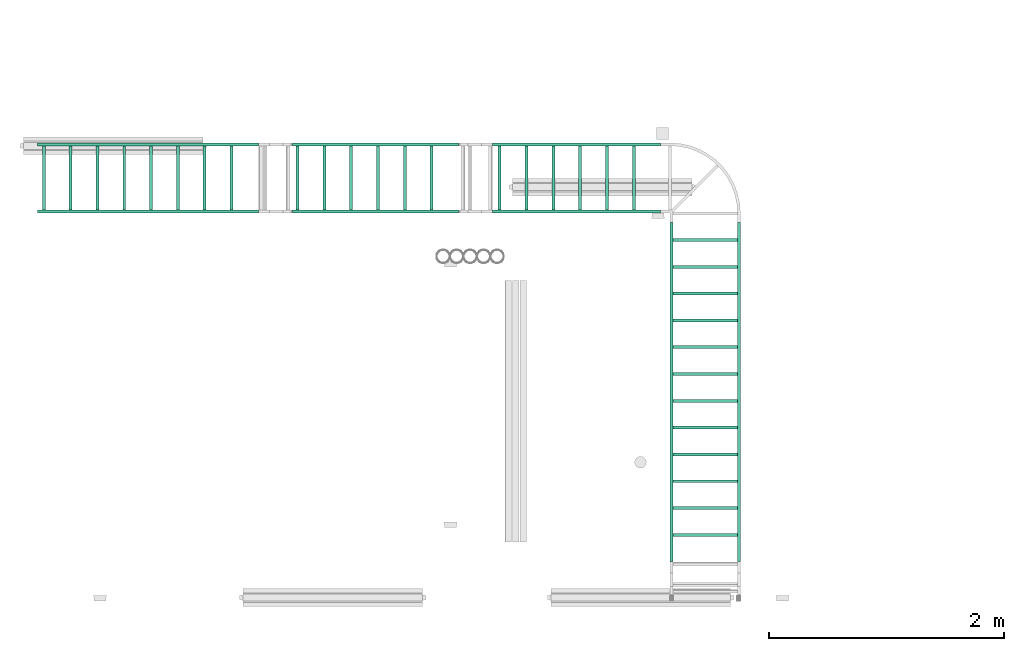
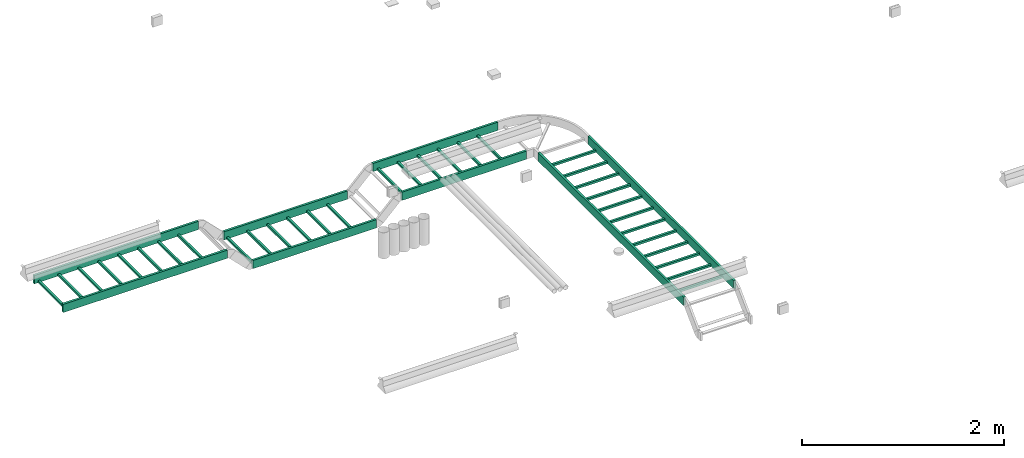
# One storey, part 9 of 14: 4 flow segments.
"""IFC2X3 building model written with IfcOpenShell, lengths in millimetres."""

from ifc_helpers import new_model, entity, si_unit, converted_unit, derived_unit, direction, frame, origin_with_axes, place, context, subcontext, project, spatial, open_shell, faceted_brep, surface_model, source, transform, mapped, type_object, element, save


model = new_model("IFC2X3")

# Units and contexts
model_context = context("Model", 3, precision=0.01, world=frame((0.0, 4.29681676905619e-09, 0.0)), true_north=direction((4.01073788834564e-13, 1.0)))
plan_context = context("Plan", 3, precision=0.01, world=frame((0.0, 4.29681676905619e-09, 0.0)), true_north=direction((4.01073788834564e-13, 1.0)))
body_context = subcontext(model_context, "Body", "Model", "MODEL_VIEW")
ifc_project = project(units=[converted_unit("PLANEANGLEUNIT", "DEGREE", entity("IfcPositiveLengthMeasure", 0.0174532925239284), si_unit("PLANEANGLEUNIT", "RADIAN"), dimensions=[0, 0, 0, 0, 0, 0, 0]), si_unit("AREAUNIT", "SQUARE_METRE"), si_unit("LENGTHUNIT", "METRE", prefix="MILLI"), si_unit("MASSUNIT", "GRAM", prefix="KILO"), si_unit("POWERUNIT", "WATT"), si_unit("PRESSUREUNIT", "PASCAL"), si_unit("FORCEUNIT", "NEWTON", prefix="KILO"), si_unit("ELECTRICVOLTAGEUNIT", "VOLT"), si_unit("ELECTRICCURRENTUNIT", "AMPERE"), si_unit("THERMODYNAMICTEMPERATUREUNIT", "DEGREE_CELSIUS"), si_unit("TIMEUNIT", "SECOND"), si_unit("VOLUMEUNIT", "CUBIC_METRE"), derived_unit("LINEARVELOCITYUNIT", [(si_unit("LENGTHUNIT", "METRE"), 1), (si_unit("TIMEUNIT", "SECOND"), -1)]), derived_unit("VOLUMETRICFLOWRATEUNIT", [(si_unit("VOLUMEUNIT", "CUBIC_METRE"), 1), (si_unit("TIMEUNIT", "SECOND"), -1)]), derived_unit("THERMALTRANSMITTANCEUNIT", [(si_unit("POWERUNIT", "WATT"), 1), (si_unit("THERMODYNAMICTEMPERATUREUNIT", "KELVIN"), -1), (si_unit("AREAUNIT", "SQUARE_METRE"), -1)]), derived_unit("SOUNDPRESSUREUNIT", [(si_unit("PRESSUREUNIT", "PASCAL"), 1)])], contexts=[model_context, plan_context])

# Site, building, storey
site_placement = place(None, frame((0.0, -4.29681676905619e-09, 0.0), z_axis=(0.0, 0.0, 1.0), x_axis=(1.0, 0.0, 0.0)))
site = spatial("IfcSite", under=ifc_project, at=site_placement, Name="ENGM", CompositionType="ELEMENT")
building_placement = place(site_placement, frame((0.0, 4.29681676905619e-09, 0.0), z_axis=(0.0, 0.0, 1.0), x_axis=(1.0, 0.0, 0.0)))
building = spatial("IfcBuilding", under=site, at=building_placement, Name="TH", CompositionType="ELEMENT")
storey_placement = place(building_placement, frame((0.0, 0.0, 205200.0), z_axis=(0.0, 0.0, 1.0), x_axis=(1.0, 0.0, 0.0)))
storey = spatial("IfcBuildingStorey", under=building, at=storey_placement, Name="Nivå D + 1,2 m", CompositionType="ELEMENT", Elevation=205200.0)

# Flow segments
cable_carrier_segment_type = type_object("IfcCableCarrierSegmentType", Name="Kabelbro", PredefinedType="CABLELADDERSEGMENT")
shared_shape_1 = source(origin_with_axes(), body_context, "Body", "SurfaceModel", [
    surface_model("IfcShellBasedSurfaceModel", [(241.30001, -274.60001, -24.6), (241.30001, -274.60001, -50.0), (241.30001, 274.60001, -24.6), (241.30001, 274.60001, -50.0), (215.89999, -274.60001, -50.0), (215.89999, -274.60001, -24.6), (215.89999, 274.60001, -50.0), (215.89999, 274.60001, -24.6), (469.89999, -274.60001, -24.6), (469.89999, -274.60001, -50.0), (469.89999, 274.60001, -24.6), (469.89999, 274.60001, -50.0), (444.50001, -274.60001, -50.0), (444.50001, -274.60001, -24.6), (444.50001, 274.60001, -50.0), (444.50001, 274.60001, -24.6), (698.50002, -274.60001, -24.6), (698.50002, -274.60001, -50.0), (698.50002, 274.60001, -24.6), (698.50002, 274.60001, -50.0), (673.09998, -274.60001, -50.0), (673.09998, -274.60001, -24.6), (673.09998, 274.60001, -50.0), (673.09998, 274.60001, -24.6), (927.10002, -274.60001, -24.6), (927.10002, -274.60001, -50.0), (927.10002, 274.60001, -24.6), (927.10002, 274.60001, -50.0), (901.69998, -274.60001, -50.0), (901.69998, -274.60001, -24.6), (901.69998, 274.60001, -50.0), (901.69998, 274.60001, -24.6), (1155.70002, -274.60001, -24.6), (1155.70002, -274.60001, -50.0), (1155.70002, 274.60001, -24.6), (1155.70002, 274.60001, -50.0), (1130.29998, -274.60001, -50.0), (1130.29998, -274.60001, -24.6), (1130.29998, 274.60001, -50.0), (1130.29998, 274.60001, -24.6), (1384.29995, -274.60001, -24.6), (1384.29995, -274.60001, -50.0), (1384.29995, 274.60001, -24.6), (1384.29995, 274.60001, -50.0), (1358.90005, -274.60001, -50.0), (1358.90005, -274.60001, -24.6), (1358.90005, 274.60001, -50.0), (1358.90005, 274.60001, -24.6), (1612.89995, -274.60001, -24.6), (1612.89995, -274.60001, -50.0), (1612.89995, 274.60001, -24.6), (1612.89995, 274.60001, -50.0), (1587.50005, -274.60001, -50.0), (1587.50005, -274.60001, -24.6), (1587.50005, 274.60001, -50.0), (1587.50005, 274.60001, -24.6), (1841.49995, -274.60001, -24.6), (1841.49995, -274.60001, -50.0), (1841.49995, 274.60001, -24.6), (1841.49995, 274.60001, -50.0), (1816.10005, -274.60001, -50.0), (1816.10005, -274.60001, -24.6), (1816.10005, 274.60001, -50.0), (1816.10005, 274.60001, -24.6), (2070.09995, -274.60001, -24.6), (2070.09995, -274.60001, -50.0), (2070.09995, 274.60001, -24.6), (2070.09995, 274.60001, -50.0), (2044.70005, -274.60001, -50.0), (2044.70005, -274.60001, -24.6), (2044.70005, 274.60001, -50.0), (2044.70005, 274.60001, -24.6), (2298.69995, -274.60001, -24.6), (2298.69995, -274.60001, -50.0), (2298.69995, 274.60001, -24.6), (2298.69995, 274.60001, -50.0), (2273.30005, -274.60001, -50.0), (2273.30005, -274.60001, -24.6), (2273.30005, 274.60001, -50.0), (2273.30005, 274.60001, -24.6), (2527.3001, -274.60001, -24.6), (2527.3001, -274.60001, -50.0), (2527.3001, 274.60001, -24.6), (2527.3001, 274.60001, -50.0), (2501.8999, -274.60001, -50.0), (2501.8999, -274.60001, -24.6), (2501.8999, 274.60001, -50.0), (2501.8999, 274.60001, -24.6), (2755.9001, -274.60001, -24.6), (2755.9001, -274.60001, -50.0), (2755.9001, 274.60001, -24.6), (2755.9001, 274.60001, -50.0), (2730.4999, -274.60001, -50.0), (2730.4999, -274.60001, -24.6), (2730.4999, 274.60001, -50.0), (2730.4999, 274.60001, -24.6), (0.0, -300.0, -50.0), (0.0, -300.0, 50.0), (0.0, -274.60001, 50.0), (0.0, -274.60001, -50.0), (0.0, 274.60001, -50.0), (0.0, 274.60001, 50.0), (0.0, 300.0, 50.0), (0.0, 300.0, -50.0), (2890.74739, -300.0, -50.0), (2890.74739, -274.60001, -50.0), (2890.74739, -274.60001, 50.0), (2890.74739, -300.0, 50.0), (2890.74739, 274.60001, -50.0), (2890.74739, 300.0, -50.0), (2890.74739, 300.0, 50.0), (2890.74739, 274.60001, 50.0)], [open_shell([[[0, 1, 2]], [[3, 2, 1]], [[4, 5, 6]], [[7, 6, 5]], [[8, 9, 10]], [[11, 10, 9]], [[12, 13, 14]], [[15, 14, 13]], [[16, 17, 18]], [[19, 18, 17]], [[20, 21, 22]], [[23, 22, 21]], [[24, 25, 26]], [[27, 26, 25]], [[28, 29, 30]], [[31, 30, 29]], [[32, 33, 34]], [[35, 34, 33]], [[36, 37, 38]], [[39, 38, 37]], [[40, 41, 42]], [[43, 42, 41]], [[44, 45, 46]], [[47, 46, 45]], [[48, 49, 50]], [[51, 50, 49]], [[52, 53, 54]], [[55, 54, 53]], [[56, 57, 58]], [[59, 58, 57]], [[60, 61, 62]], [[63, 62, 61]], [[64, 65, 66]], [[67, 66, 65]], [[68, 69, 70]], [[71, 70, 69]], [[72, 73, 74]], [[75, 74, 73]], [[76, 77, 78]], [[79, 78, 77]], [[80, 81, 82]], [[83, 82, 81]], [[84, 85, 86]], [[87, 86, 85]], [[88, 89, 90]], [[91, 90, 89]], [[92, 93, 94]], [[95, 94, 93]], [[96, 97, 98]], [[98, 99, 96]], [[0, 5, 4]], [[4, 1, 0]], [[6, 7, 2]], [[2, 3, 6]], [[100, 101, 102]], [[102, 103, 100]], [[5, 0, 7]], [[2, 7, 0]], [[1, 4, 3]], [[6, 3, 4]], [[12, 9, 8]], [[8, 13, 12]], [[10, 11, 14]], [[14, 15, 10]], [[13, 8, 15]], [[10, 15, 8]], [[9, 12, 11]], [[14, 11, 12]], [[20, 17, 16]], [[16, 21, 20]], [[18, 19, 22]], [[22, 23, 18]], [[21, 16, 23]], [[18, 23, 16]], [[17, 20, 19]], [[22, 19, 20]], [[28, 25, 24]], [[24, 29, 28]], [[26, 27, 30]], [[30, 31, 26]], [[29, 24, 31]], [[26, 31, 24]], [[25, 28, 27]], [[30, 27, 28]], [[37, 32, 39]], [[34, 39, 32]], [[33, 36, 35]], [[38, 35, 36]], [[45, 40, 47]], [[42, 47, 40]], [[41, 44, 43]], [[46, 43, 44]], [[53, 48, 55]], [[50, 55, 48]], [[49, 52, 51]], [[54, 51, 52]], [[61, 56, 63]], [[58, 63, 56]], [[57, 60, 59]], [[62, 59, 60]], [[69, 64, 71]], [[66, 71, 64]], [[65, 68, 67]], [[70, 67, 68]], [[77, 72, 79]], [[74, 79, 72]], [[73, 76, 75]], [[78, 75, 76]], [[85, 80, 87]], [[82, 87, 80]], [[81, 84, 83]], [[86, 83, 84]], [[93, 88, 95]], [[90, 95, 88]], [[89, 92, 91]], [[94, 91, 92]], [[32, 37, 36]], [[36, 33, 32]], [[38, 39, 34]], [[34, 35, 38]], [[40, 45, 44]], [[44, 41, 40]], [[46, 47, 42]], [[42, 43, 46]], [[48, 53, 52]], [[52, 49, 48]], [[54, 55, 50]], [[50, 51, 54]], [[56, 61, 60]], [[60, 57, 56]], [[62, 63, 58]], [[58, 59, 62]], [[64, 69, 68]], [[68, 65, 64]], [[70, 71, 66]], [[66, 67, 70]], [[72, 77, 76]], [[76, 73, 72]], [[78, 79, 74]], [[74, 75, 78]], [[80, 85, 84]], [[84, 81, 80]], [[86, 87, 82]], [[82, 83, 86]], [[88, 93, 92]], [[92, 89, 88]], [[94, 95, 90]], [[90, 91, 94]], [[104, 105, 106]], [[106, 107, 104]], [[108, 109, 110]], [[110, 111, 108]], [[97, 96, 104]], [[104, 107, 97]], [[98, 97, 106]], [[107, 106, 97]], [[99, 98, 105]], [[106, 105, 98]], [[96, 99, 104]], [[105, 104, 99]], [[103, 102, 109]], [[110, 109, 102]], [[100, 103, 108]], [[109, 108, 103]], [[101, 100, 108]], [[108, 111, 101]], [[102, 101, 110]], [[111, 110, 101]]])]),
])
flow_segment_1_placement = place(storey_placement, frame((900805.0, 477903.25248, 4345.29999999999), z_axis=(0.0, 0.0, 1.0), x_axis=(0.0, 1.0, 0.0)))
element("IfcFlowSegment", 1, at=flow_segment_1_placement, inside=storey, type_object=cable_carrier_segment_type, Name="Kabelbro", context=body_context, shape_type="MappedRepresentation", body=[
    mapped(shared_shape_1, transform((0.0, 0.0, 0.0), scale=1.0)),
])
shared_shape_2 = source(origin_with_axes(), body_context, "Body", "SurfaceModel", [
    surface_model("IfcShellBasedSurfaceModel", [(0.0, -274.60001, -50.0), (0.0, -300.0, -50.0), (0.0, -300.0, 50.0), (0.0, -274.60001, 50.0), (0.0, 300.0, -50.0), (0.0, 274.60001, -50.0), (0.0, 274.60001, 50.0), (0.0, 300.0, 50.0), (215.89999, -274.60001, -24.6), (215.89999, -274.60001, -50.0), (241.30001, -274.60001, -50.0), (241.30001, -274.60001, -24.6), (241.30001, 274.60001, -50.0), (215.89999, 274.60001, -50.0), (215.89999, 274.60001, -24.6), (241.30001, 274.60001, -24.6), (444.50001, -274.60001, -24.6), (444.50001, -274.60001, -50.0), (469.89999, -274.60001, -50.0), (469.89999, -274.60001, -24.6), (469.89999, 274.60001, -50.0), (444.50001, 274.60001, -50.0), (444.50001, 274.60001, -24.6), (469.89999, 274.60001, -24.6), (673.09998, -274.60001, -24.6), (673.09998, -274.60001, -50.0), (698.50002, -274.60001, -50.0), (698.50002, -274.60001, -24.6), (698.50002, 274.60001, -50.0), (673.09998, 274.60001, -50.0), (673.09998, 274.60001, -24.6), (698.50002, 274.60001, -24.6), (901.69998, -274.60001, -24.6), (901.69998, -274.60001, -50.0), (927.10002, -274.60001, -50.0), (927.10002, -274.60001, -24.6), (927.10002, 274.60001, -50.0), (901.69998, 274.60001, -50.0), (901.69998, 274.60001, -24.6), (927.10002, 274.60001, -24.6), (1130.29998, -274.60001, -24.6), (1130.29998, -274.60001, -50.0), (1155.70002, -274.60001, -50.0), (1155.70002, -274.60001, -24.6), (1155.70002, 274.60001, -50.0), (1130.29998, 274.60001, -50.0), (1130.29998, 274.60001, -24.6), (1155.70002, 274.60001, -24.6), (1358.90005, -274.60001, -24.6), (1358.90005, -274.60001, -50.0), (1384.29995, -274.60001, -50.0), (1384.29995, -274.60001, -24.6), (1384.29995, 274.60001, -50.0), (1358.90005, 274.60001, -50.0), (1358.90005, 274.60001, -24.6), (1384.29995, 274.60001, -24.6), (1431.19665, -300.0, 50.0), (1431.19665, -300.0, -50.0), (1431.19665, -274.60001, -50.0), (1431.19665, -274.60001, 50.0), (1431.19665, 274.60001, 50.0), (1431.19665, 274.60001, -50.0), (1431.19665, 300.0, -50.0), (1431.19665, 300.0, 50.0)], [open_shell([[[0, 1, 2]], [[2, 3, 0]], [[4, 5, 6]], [[6, 7, 4]], [[8, 9, 10]], [[10, 11, 8]], [[12, 13, 14]], [[14, 15, 12]], [[11, 10, 15]], [[12, 15, 10]], [[8, 11, 15]], [[15, 14, 8]], [[9, 8, 13]], [[14, 13, 8]], [[10, 9, 13]], [[13, 12, 10]], [[16, 17, 18]], [[18, 19, 16]], [[20, 21, 22]], [[22, 23, 20]], [[19, 18, 23]], [[20, 23, 18]], [[16, 19, 23]], [[23, 22, 16]], [[17, 16, 21]], [[22, 21, 16]], [[18, 17, 21]], [[21, 20, 18]], [[24, 25, 26]], [[26, 27, 24]], [[28, 29, 30]], [[30, 31, 28]], [[27, 26, 31]], [[28, 31, 26]], [[24, 27, 31]], [[31, 30, 24]], [[25, 24, 29]], [[30, 29, 24]], [[26, 25, 29]], [[29, 28, 26]], [[32, 33, 34]], [[34, 35, 32]], [[36, 37, 38]], [[38, 39, 36]], [[35, 34, 39]], [[36, 39, 34]], [[32, 35, 39]], [[39, 38, 32]], [[33, 32, 37]], [[38, 37, 32]], [[34, 33, 37]], [[37, 36, 34]], [[40, 41, 42]], [[42, 43, 40]], [[44, 45, 46]], [[46, 47, 44]], [[43, 42, 47]], [[44, 47, 42]], [[40, 43, 47]], [[47, 46, 40]], [[41, 40, 45]], [[46, 45, 40]], [[42, 41, 45]], [[45, 44, 42]], [[48, 49, 50]], [[50, 51, 48]], [[52, 53, 54]], [[54, 55, 52]], [[51, 50, 55]], [[52, 55, 50]], [[48, 51, 55]], [[55, 54, 48]], [[49, 48, 53]], [[54, 53, 48]], [[50, 49, 53]], [[53, 52, 50]], [[56, 57, 58]], [[58, 59, 56]], [[60, 61, 62]], [[62, 63, 60]], [[2, 1, 56]], [[57, 56, 1]], [[3, 2, 59]], [[56, 59, 2]], [[0, 3, 58]], [[59, 58, 3]], [[1, 0, 57]], [[58, 57, 0]], [[4, 7, 62]], [[63, 62, 7]], [[5, 4, 61]], [[62, 61, 4]], [[6, 5, 60]], [[61, 60, 5]], [[7, 6, 63]], [[60, 63, 6]]])]),
])
flow_segment_2_placement = place(storey_placement, frame((900424.0, 481175.0, 4345.29999999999), z_axis=(0.0, 0.0, 1.0), x_axis=(-1.0, 0.0, 0.0)))
element("IfcFlowSegment", 2, at=flow_segment_2_placement, inside=storey, type_object=cable_carrier_segment_type, Name="Kabelbro", context=body_context, shape_type="MappedRepresentation", body=[
    mapped(shared_shape_2, transform((0.0, 0.0, 0.0), scale=1.0)),
])
shared_shape_3 = source(origin_with_axes(), body_context, "Body", "SurfaceModel", [
    surface_model("IfcShellBasedSurfaceModel", [(0.0, -274.60001, -50.0), (0.0, -300.0, -50.0), (0.0, -300.0, 50.0), (0.0, -274.60001, 50.0), (0.0, 300.0, -50.0), (0.0, 274.60001, -50.0), (0.0, 274.60001, 50.0), (0.0, 300.0, 50.0), (215.89999, -274.60001, -24.6), (215.89999, -274.60001, -50.0), (241.30001, -274.60001, -50.0), (241.30001, -274.60001, -24.6), (241.30001, 274.60001, -50.0), (215.89999, 274.60001, -50.0), (215.89999, 274.60001, -24.6), (241.30001, 274.60001, -24.6), (444.50001, -274.60001, -24.6), (444.50001, -274.60001, -50.0), (469.89999, -274.60001, -50.0), (469.89999, -274.60001, -24.6), (469.89999, 274.60001, -50.0), (444.50001, 274.60001, -50.0), (444.50001, 274.60001, -24.6), (469.89999, 274.60001, -24.6), (673.09998, -274.60001, -24.6), (673.09998, -274.60001, -50.0), (698.50002, -274.60001, -50.0), (698.50002, -274.60001, -24.6), (698.50002, 274.60001, -50.0), (673.09998, 274.60001, -50.0), (673.09998, 274.60001, -24.6), (698.50002, 274.60001, -24.6), (901.69998, -274.60001, -24.6), (901.69998, -274.60001, -50.0), (927.10002, -274.60001, -50.0), (927.10002, -274.60001, -24.6), (927.10002, 274.60001, -50.0), (901.69998, 274.60001, -50.0), (901.69998, 274.60001, -24.6), (927.10002, 274.60001, -24.6), (1130.29998, -274.60001, -24.6), (1130.29998, -274.60001, -50.0), (1155.70002, -274.60001, -50.0), (1155.70002, -274.60001, -24.6), (1155.70002, 274.60001, -50.0), (1130.29998, 274.60001, -50.0), (1130.29998, 274.60001, -24.6), (1155.70002, 274.60001, -24.6), (1358.90005, -274.60001, -24.6), (1358.90005, -274.60001, -50.0), (1384.29995, -274.60001, -50.0), (1384.29995, -274.60001, -24.6), (1384.29995, 274.60001, -50.0), (1358.90005, 274.60001, -50.0), (1358.90005, 274.60001, -24.6), (1384.29995, 274.60001, -24.6), (1413.57011, -300.0, 50.0), (1413.57011, -300.0, -50.0), (1413.57011, -274.60001, -50.0), (1413.57011, -274.60001, 50.0), (1413.57011, 274.60001, 50.0), (1413.57011, 274.60001, -50.0), (1413.57011, 300.0, -50.0), (1413.57011, 300.0, 50.0)], [open_shell([[[0, 1, 2]], [[2, 3, 0]], [[4, 5, 6]], [[6, 7, 4]], [[8, 9, 10]], [[10, 11, 8]], [[12, 13, 14]], [[14, 15, 12]], [[11, 10, 15]], [[12, 15, 10]], [[8, 11, 15]], [[15, 14, 8]], [[9, 8, 13]], [[14, 13, 8]], [[10, 9, 13]], [[13, 12, 10]], [[16, 17, 18]], [[18, 19, 16]], [[20, 21, 22]], [[22, 23, 20]], [[19, 18, 23]], [[20, 23, 18]], [[16, 19, 23]], [[23, 22, 16]], [[17, 16, 21]], [[22, 21, 16]], [[18, 17, 21]], [[21, 20, 18]], [[24, 25, 26]], [[26, 27, 24]], [[28, 29, 30]], [[30, 31, 28]], [[27, 26, 31]], [[28, 31, 26]], [[24, 27, 31]], [[31, 30, 24]], [[25, 24, 29]], [[30, 29, 24]], [[26, 25, 29]], [[29, 28, 26]], [[32, 33, 34]], [[34, 35, 32]], [[36, 37, 38]], [[38, 39, 36]], [[35, 34, 39]], [[36, 39, 34]], [[32, 35, 39]], [[39, 38, 32]], [[33, 32, 37]], [[38, 37, 32]], [[34, 33, 37]], [[37, 36, 34]], [[40, 41, 42]], [[42, 43, 40]], [[44, 45, 46]], [[46, 47, 44]], [[43, 42, 47]], [[44, 47, 42]], [[40, 43, 47]], [[47, 46, 40]], [[41, 40, 45]], [[46, 45, 40]], [[42, 41, 45]], [[45, 44, 42]], [[48, 49, 50]], [[50, 51, 48]], [[52, 53, 54]], [[54, 55, 52]], [[51, 50, 55]], [[52, 55, 50]], [[48, 51, 55]], [[55, 54, 48]], [[49, 48, 53]], [[54, 53, 48]], [[50, 49, 53]], [[53, 52, 50]], [[56, 57, 58]], [[58, 59, 56]], [[60, 61, 62]], [[62, 63, 60]], [[2, 1, 57]], [[57, 56, 2]], [[3, 2, 56]], [[56, 59, 3]], [[0, 3, 59]], [[59, 58, 0]], [[1, 0, 58]], [[58, 57, 1]], [[4, 7, 63]], [[63, 62, 4]], [[5, 4, 62]], [[62, 61, 5]], [[6, 5, 61]], [[61, 60, 6]], [[7, 6, 60]], [[60, 63, 7]]])]),
])
flow_segment_3_placement = place(storey_placement, frame((898700.09774, 481175.0, 4115.29999999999), z_axis=(0.0, 0.0, 1.0), x_axis=(-1.0, 0.0, 0.0)))
element("IfcFlowSegment", 3, at=flow_segment_3_placement, inside=storey, type_object=cable_carrier_segment_type, Name="Kabelbro", context=body_context, shape_type="MappedRepresentation", body=[
    mapped(shared_shape_3, transform((0.0, 0.0, 0.0), scale=1.0)),
])
flow_segment_4_placement = place(storey_placement, frame((896993.82198, 481175.0, 4345.29999999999), z_axis=(0.0, 0.0, 1.0), x_axis=(-1.0, 0.0, 0.0)))
element("IfcFlowSegment", 4, at=flow_segment_4_placement, inside=storey, type_object=cable_carrier_segment_type, Name="Kabelbro", context=body_context, shape_type="Brep", body=[
    faceted_brep([(0.0, -300.0, 50.0), (0.0, -300.0, -50.0), (0.0, -274.60001, -50.0), (0.0, -274.60001, 50.0), (0.0, 274.60001, 50.0), (0.0, 274.60001, -50.0), (0.0, 300.0, -50.0), (0.0, 300.0, 50.0), (241.30001, -274.60001, -50.0), (215.89999, -274.60001, -50.0), (215.89999, -274.60001, -24.6), (241.30001, -274.60001, -24.6), (215.89999, 274.60001, -24.6), (215.89999, 274.60001, -50.0), (241.30001, 274.60001, -50.0), (241.30001, 274.60001, -24.6), (469.89999, -274.60001, -50.0), (444.50001, -274.60001, -50.0), (444.50001, -274.60001, -24.6), (469.89999, -274.60001, -24.6), (444.50001, 274.60001, -24.6), (444.50001, 274.60001, -50.0), (469.89999, 274.60001, -50.0), (469.89999, 274.60001, -24.6), (698.50002, -274.60001, -50.0), (673.09998, -274.60001, -50.0), (673.09998, -274.60001, -24.6), (698.50002, -274.60001, -24.6), (673.09998, 274.60001, -24.6), (673.09998, 274.60001, -50.0), (698.50002, 274.60001, -50.0), (698.50002, 274.60001, -24.6), (927.10002, -274.60001, -50.0), (901.69998, -274.60001, -50.0), (901.69998, -274.60001, -24.6), (927.10002, -274.60001, -24.6), (901.69998, 274.60001, -24.6), (901.69998, 274.60001, -50.0), (927.10002, 274.60001, -50.0), (927.10002, 274.60001, -24.6), (1155.70002, -274.60001, -50.0), (1130.29998, -274.60001, -50.0), (1130.29998, -274.60001, -24.6), (1155.70002, -274.60001, -24.6), (1130.29998, 274.60001, -24.6), (1130.29998, 274.60001, -50.0), (1155.70002, 274.60001, -50.0), (1155.70002, 274.60001, -24.6), (1384.29995, -274.60001, -50.0), (1358.90005, -274.60001, -50.0), (1358.90005, -274.60001, -24.6), (1384.29995, -274.60001, -24.6), (1358.90005, 274.60001, -24.6), (1358.90005, 274.60001, -50.0), (1384.29995, 274.60001, -50.0), (1384.29995, 274.60001, -24.6), (1612.89995, -274.60001, -50.0), (1587.50005, -274.60001, -50.0), (1587.50005, -274.60001, -24.6), (1612.89995, -274.60001, -24.6), (1587.50005, 274.60001, -24.6), (1587.50005, 274.60001, -50.0), (1612.89995, 274.60001, -50.0), (1612.89995, 274.60001, -24.6), (1841.49995, -274.60001, -50.0), (1816.10005, -274.60001, -50.0), (1816.10005, -274.60001, -24.6), (1841.49995, -274.60001, -24.6), (1816.10005, 274.60001, -24.6), (1816.10005, 274.60001, -50.0), (1841.49995, 274.60001, -50.0), (1841.49995, 274.60001, -24.6), (1881.91581142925, -300.0, 50.0), (1881.91581142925, -300.0, -11.9493821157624), (1881.91581142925, -300.0, -50.0), (1881.91581142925, -274.60001, 50.0), (1881.91581142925, -290.335146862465, 50.0), (1881.91581142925, -274.60001, -11.9493821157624), (1881.91581142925, -274.60001, -50.0), (1881.91581142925, -284.264863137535, -50.0), (1881.91581142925, 300.0, -11.9493821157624), (1881.91581142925, 300.0, 50.0), (1881.91581142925, 300.0, -50.0), (1881.91581142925, 274.60001, -50.0), (1881.91581142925, 290.335146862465, -50.0), (1881.91581142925, 274.60001, 50.0), (1881.91581142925, 274.60001, -11.9493821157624), (1881.91581142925, 284.264863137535, 50.0)], [[[0, 1, 2]], [[2, 3, 0]], [[4, 5, 6]], [[6, 7, 4]], [[8, 9, 10]], [[10, 11, 8]], [[12, 13, 14]], [[14, 15, 12]], [[15, 8, 11]], [[8, 15, 14]], [[15, 11, 10]], [[10, 12, 15]], [[13, 10, 9]], [[10, 13, 12]], [[13, 9, 8]], [[8, 14, 13]], [[16, 17, 18]], [[18, 19, 16]], [[20, 21, 22]], [[22, 23, 20]], [[23, 16, 19]], [[16, 23, 22]], [[23, 19, 18]], [[18, 20, 23]], [[21, 18, 17]], [[18, 21, 20]], [[21, 17, 16]], [[16, 22, 21]], [[24, 25, 26]], [[26, 27, 24]], [[28, 29, 30]], [[30, 31, 28]], [[31, 24, 27]], [[24, 31, 30]], [[31, 27, 26]], [[26, 28, 31]], [[29, 26, 25]], [[26, 29, 28]], [[29, 25, 24]], [[24, 30, 29]], [[32, 33, 34]], [[34, 35, 32]], [[36, 37, 38]], [[38, 39, 36]], [[39, 32, 35]], [[32, 39, 38]], [[39, 35, 34]], [[34, 36, 39]], [[37, 34, 33]], [[34, 37, 36]], [[37, 33, 32]], [[32, 38, 37]], [[40, 41, 42]], [[42, 43, 40]], [[44, 45, 46]], [[46, 47, 44]], [[47, 40, 43]], [[40, 47, 46]], [[47, 43, 42]], [[42, 44, 47]], [[45, 42, 41]], [[42, 45, 44]], [[45, 41, 40]], [[40, 46, 45]], [[48, 49, 50]], [[50, 51, 48]], [[52, 53, 54]], [[54, 55, 52]], [[55, 48, 51]], [[48, 55, 54]], [[55, 51, 50]], [[50, 52, 55]], [[53, 50, 49]], [[50, 53, 52]], [[53, 49, 48]], [[48, 54, 53]], [[56, 57, 58]], [[58, 59, 56]], [[60, 61, 62]], [[62, 63, 60]], [[63, 56, 59]], [[56, 63, 62]], [[63, 59, 58]], [[58, 60, 63]], [[61, 58, 57]], [[58, 61, 60]], [[61, 57, 56]], [[56, 62, 61]], [[64, 65, 66]], [[66, 67, 64]], [[68, 69, 70]], [[70, 71, 68]], [[71, 64, 67]], [[64, 71, 70]], [[71, 67, 66]], [[66, 68, 71]], [[69, 66, 65]], [[66, 69, 68]], [[69, 65, 64]], [[64, 70, 69]], [[72, 73, 1, 0]], [[73, 74, 1]], [[75, 76, 0, 3]], [[76, 72, 0]], [[77, 75, 3, 2]], [[78, 77, 2]], [[74, 79, 2, 1]], [[79, 78, 2]], [[80, 81, 7, 6]], [[82, 80, 6]], [[83, 84, 6, 5]], [[84, 82, 6]], [[85, 86, 5, 4]], [[86, 83, 5]], [[81, 87, 4, 7]], [[87, 85, 4]], [[76, 75, 77, 78, 79, 74, 73, 72]], [[82, 84, 83, 86, 85, 87, 81, 80]]], orient=[[False], [False], [False], [False], [False], [False], [False], [False], [False], [False], [False], [False], [False], [False], [False], [False], [False], [False], [False], [False], [False], [False], [False], [False], [False], [False], [False], [False], [False], [False], [False], [False], [False], [False], [False], [False], [False], [False], [False], [False], [False], [False], [False], [False], [False], [False], [False], [False], [False], [False], [False], [False], [False], [False], [False], [False], [False], [False], [False], [False], [False], [False], [False], [False], [False], [False], [False], [False], [False], [False], [False], [False], [False], [False], [False], [False], [False], [False], [False], [False], [False], [False], [False], [False], [False], [False], [False], [False], [False], [False], [False], [False], [False], [False], [False], [False], [False], [False], [False], [False], [False], [False], [False], [False], [False], [False], [False], [False], [False], [False], [False], [False], [False], [False], [False], [False], [False], [False]]),
])

save(model, "model.ifc")
